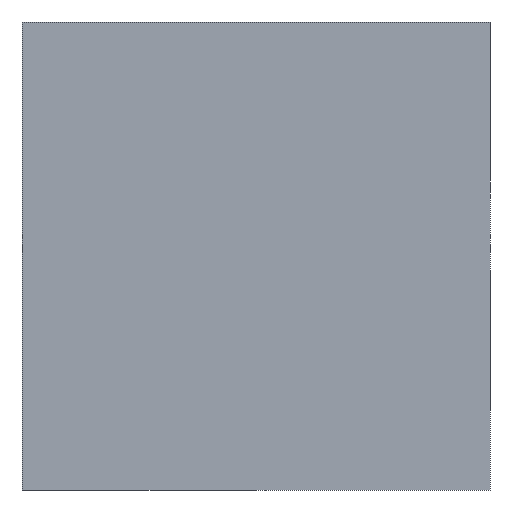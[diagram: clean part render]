
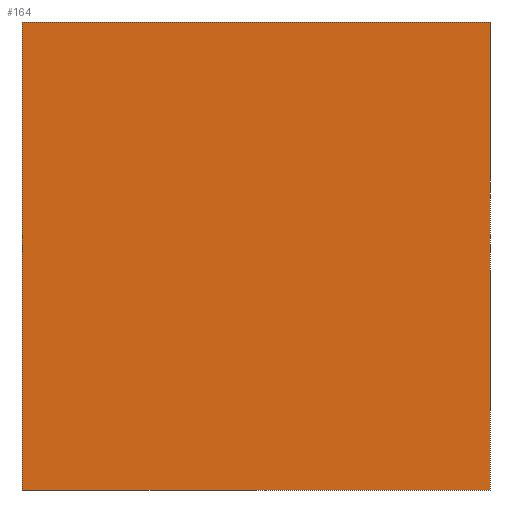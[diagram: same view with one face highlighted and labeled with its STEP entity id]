
A CAD part, left-side view. The second image highlights one B-rep face of the part: STEP entity #164.
In plain terms, the highlighted planar face has unit normal (-1, 0, 0).
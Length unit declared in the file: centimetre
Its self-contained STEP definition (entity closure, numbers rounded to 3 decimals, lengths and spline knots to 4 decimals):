
#7 = LINE ( 'NONE', #161, #9 ) ;
#9 = VECTOR ( 'NONE', #470, 100. ) ;
#19 = EDGE_LOOP ( 'NONE', ( #171, #211, #123, #175 ) ) ;
#45 = VECTOR ( 'NONE', #130, 100. ) ;
#50 = VERTEX_POINT ( 'NONE', #331 ) ;
#66 = PLANE ( 'NONE',  #438 ) ;
#68 = VECTOR ( 'NONE', #412, 100. ) ;
#94 = CARTESIAN_POINT ( 'NONE',  ( 0., 0., 1000. ) ) ;
#118 = EDGE_CURVE ( 'NONE', #237, #263, #196, .T. ) ;
#123 = ORIENTED_EDGE ( 'NONE', *, *, #118, .F. ) ;
#130 = DIRECTION ( 'NONE',  ( 0., 0., -1. ) ) ;
#139 = DIRECTION ( 'NONE',  ( 0., 0., -1. ) ) ;
#140 = EDGE_CURVE ( 'NONE', #237, #50, #306, .T. ) ;
#161 = CARTESIAN_POINT ( 'NONE',  ( 0., 1000., 0. ) ) ;
#164 = ADVANCED_FACE ( 'NONE', ( #491 ), #66, .F. ) ;
#171 = ORIENTED_EDGE ( 'NONE', *, *, #358, .T. ) ;
#175 = ORIENTED_EDGE ( 'NONE', *, *, #140, .T. ) ;
#181 = DIRECTION ( 'NONE',  ( 0., 0., -1. ) ) ;
#186 = DIRECTION ( 'NONE',  ( 1., 0., 0. ) ) ;
#196 = LINE ( 'NONE', #356, #68 ) ;
#211 = ORIENTED_EDGE ( 'NONE', *, *, #476, .F. ) ;
#227 = CARTESIAN_POINT ( 'NONE',  ( 0., 1000., 1000. ) ) ;
#237 = VERTEX_POINT ( 'NONE', #459 ) ;
#263 = VERTEX_POINT ( 'NONE', #315 ) ;
#293 = LINE ( 'NONE', #94, #45 ) ;
#306 = LINE ( 'NONE', #422, #446 ) ;
#315 = CARTESIAN_POINT ( 'NONE',  ( 0., 0., 1000. ) ) ;
#331 = CARTESIAN_POINT ( 'NONE',  ( 0., 1000., 0. ) ) ;
#356 = CARTESIAN_POINT ( 'NONE',  ( 0., 1000., 1000. ) ) ;
#358 = EDGE_CURVE ( 'NONE', #50, #500, #7, .T. ) ;
#403 = CARTESIAN_POINT ( 'NONE',  ( 0., 0., 0. ) ) ;
#412 = DIRECTION ( 'NONE',  ( 0., -1., 0. ) ) ;
#422 = CARTESIAN_POINT ( 'NONE',  ( 0., 1000., 1000. ) ) ;
#438 = AXIS2_PLACEMENT_3D ( 'NONE', #227, #186, #139 ) ;
#446 = VECTOR ( 'NONE', #181, 100. ) ;
#459 = CARTESIAN_POINT ( 'NONE',  ( 0., 1000., 1000. ) ) ;
#470 = DIRECTION ( 'NONE',  ( 0., -1., 0. ) ) ;
#476 = EDGE_CURVE ( 'NONE', #263, #500, #293, .T. ) ;
#491 = FACE_OUTER_BOUND ( 'NONE', #19, .T. ) ;
#500 = VERTEX_POINT ( 'NONE', #403 ) ;
